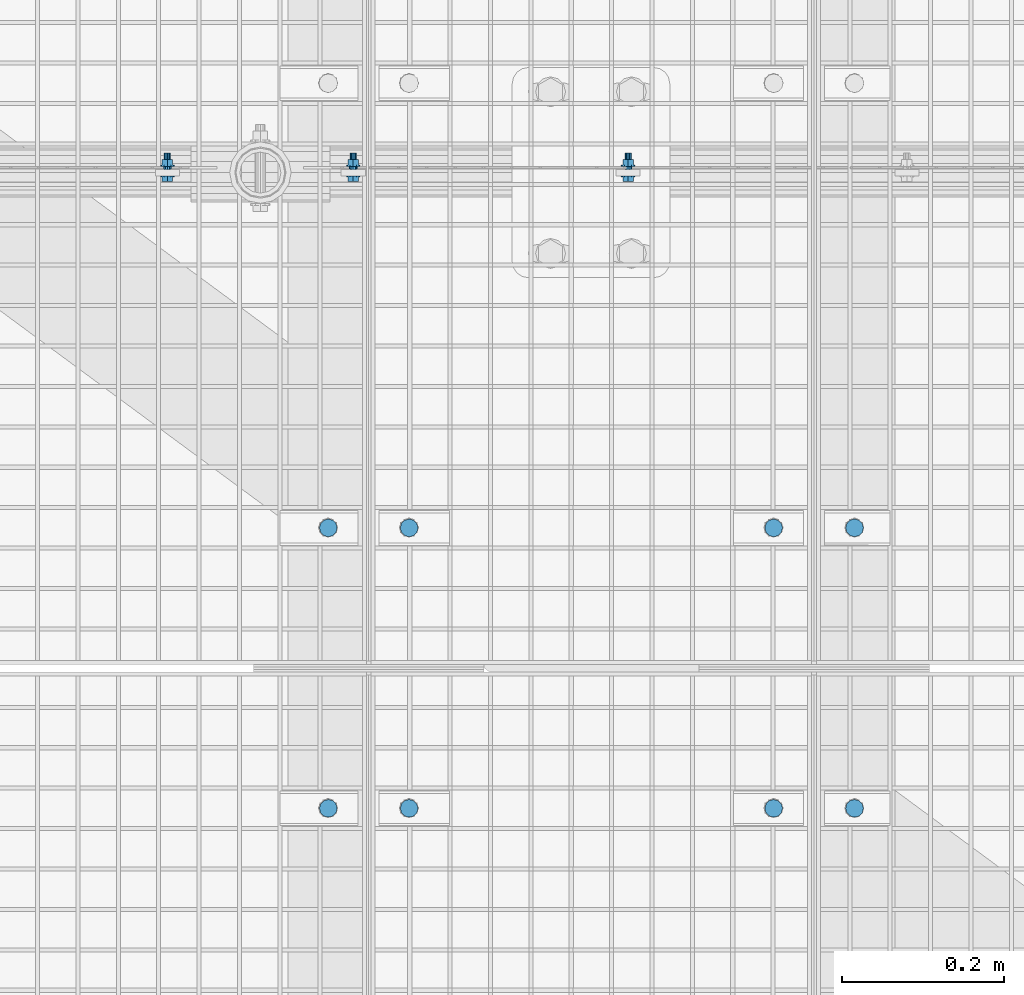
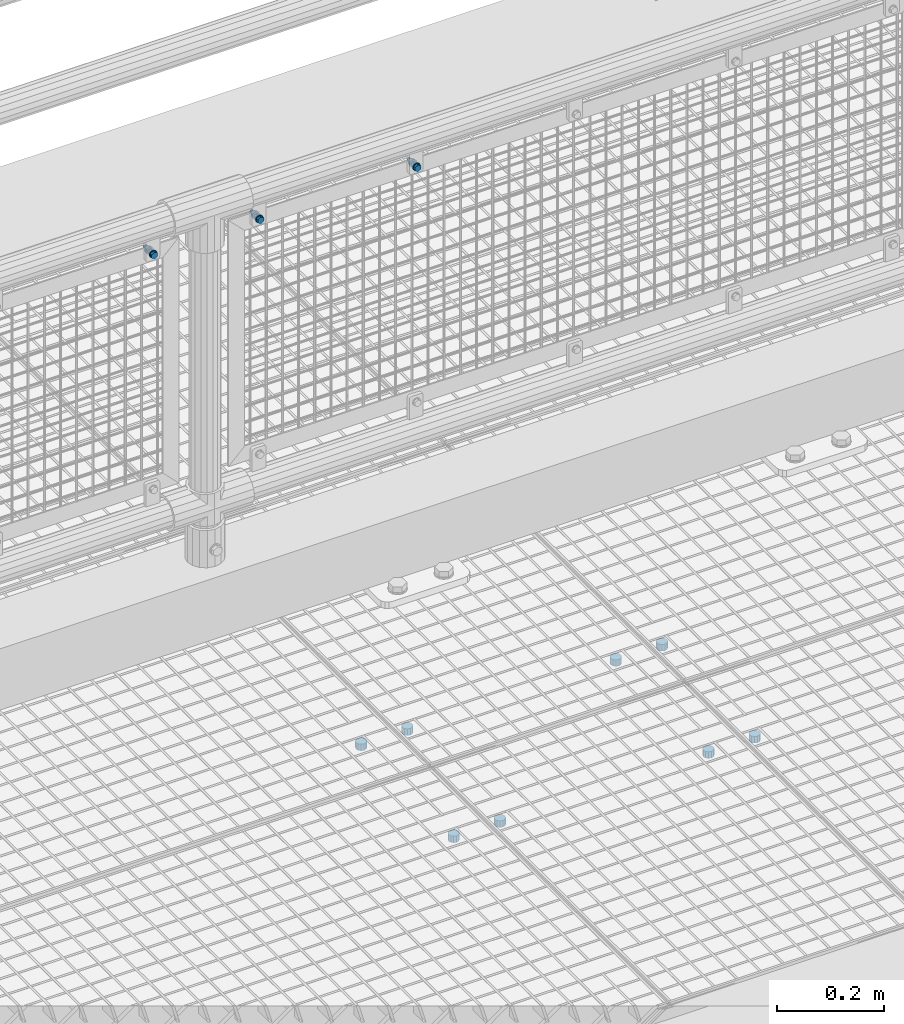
# One storey, part 72 of 1530: 11 mechanical fasteners.
"""IFC2X3 building model written with IfcOpenShell, lengths in millimetres."""

from ifc_helpers import new_model, si_unit, frame, origin_with_axes, place, context, subcontext, project, spatial, faceted_brep, source, transform, mapped, material, type_object, element, save


model = new_model("IFC2X3")

# Units and contexts
model_context = context("Model", 3, precision=1e-05, world=origin_with_axes())
body_context = subcontext(model_context, "Body", "Model", "MODEL_VIEW")
ifc_project = project(units=[si_unit("LENGTHUNIT", "METRE", prefix="MILLI"), si_unit("AREAUNIT", "SQUARE_METRE"), si_unit("VOLUMEUNIT", "CUBIC_METRE"), si_unit("MASSUNIT", "GRAM", prefix="KILO"), si_unit("TIMEUNIT", "SECOND"), si_unit("PLANEANGLEUNIT", "RADIAN"), si_unit("SOLIDANGLEUNIT", "STERADIAN"), si_unit("THERMODYNAMICTEMPERATUREUNIT", "DEGREE_CELSIUS"), si_unit("LUMINOUSINTENSITYUNIT", "LUMEN")], contexts=[model_context])

# Site, building, storey
site_placement = place(None, origin_with_axes())
site = spatial("IfcSite", under=ifc_project, at=site_placement, Name="Brattvåg", CompositionType="ELEMENT")
building_placement = place(site_placement, origin_with_axes())
building = spatial("IfcBuilding", under=site, at=building_placement, Name="Undefined", CompositionType="ELEMENT")
storey_placement = place(building_placement, origin_with_axes())
storey = spatial("IfcBuildingStorey", under=building, at=storey_placement, Name="Undefined", CompositionType="ELEMENT", Elevation=0.0)

# Mechanical fasteners
ifc_material = material(Name="8")
mechanical_fastener_type = type_object("IfcMechanicalFastenerType", Name="Bolt assembly")
shared_shape_1 = source(origin_with_axes(), body_context, "Body", "Brep", [
    faceted_brep([(11.0, -4.99999999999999, 0.0), (9.52627944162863, -4.99999999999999, 5.50000000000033), (5.49999999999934, -4.99999999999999, 9.5262794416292), (-1.13996957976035e-12, -4.99999999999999, 11.0), (-5.50000000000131, -4.99999999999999, 9.52627944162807), (-9.52627944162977, -4.99999999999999, 5.49999999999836), (-11.0, -4.99999999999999, -2.27993915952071e-12), (-9.5262794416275, -4.99999999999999, -5.5000000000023), (-5.49999999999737, -4.99999999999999, -9.52627944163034), (3.40769628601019e-12, -4.99999999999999, -11.0), (5.50000000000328, -4.99999999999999, -9.52627944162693), (9.52627944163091, -4.99999999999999, -5.49999999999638), (9.52627944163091, 10.1, -5.49999999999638), (5.50000000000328, 10.1, -9.52627944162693), (3.40769628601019e-12, 10.1, -11.0), (-5.49999999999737, 10.1, -9.52627944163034), (-9.5262794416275, 10.1, -5.5000000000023), (-11.0, 10.1, -2.27993915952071e-12), (-9.52627944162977, 10.1, 5.49999999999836), (-5.50000000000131, 10.1, 9.52627944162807), (-1.13996957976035e-12, 10.1, 11.0), (5.49999999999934, 10.1, 9.5262794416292), (9.52627944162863, 10.1, 5.50000000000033), (11.0, 10.1, 0.0)], [[[0, 1, 2, 3, 4, 5, 6, 7, 8, 9, 10, 11]], [[12, 13, 14, 15, 16, 17, 18, 19, 20, 21, 22, 23]], [[0, 23, 22, 1]], [[1, 22, 21, 2]], [[2, 21, 20, 3]], [[3, 20, 19, 4]], [[4, 19, 18, 5]], [[5, 18, 17, 6]], [[6, 17, 16, 7]], [[7, 16, 15, 8]], [[8, 15, 14, 9]], [[9, 14, 13, 10]], [[10, 13, 12, 11]], [[11, 12, 23, 0]]]),
])
for number, where, z_axis, x_axis, name in (
    (1, (2856.01522064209, 7224.91931152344, -35.0), (0.0, -1.0, 0.0), (-1.0, 1.99999855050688e-09, 0.0), "Bolt assembly"),
    (2, (2405.00477935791, 7224.91931152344, -35.0), (0.0, 1.0, 0.0), (1.0, 0.0, 0.0), "Bolt assembly"),
    (3, (2305.01487731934, 7224.9204864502, -35.0), (0.0, -1.0, 0.0), (-1.0, 1.99999855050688e-09, 0.0), "Bolt assembly"),
    (4, (2856.01522064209, 6877.99411010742, -35.0), (0.0, -1.0, 0.0), (-1.0, 1.99999855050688e-09, 0.0), "Bolt assembly"),
    (5, (2405.00477935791, 6877.99411010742, -35.0), (0.0, 1.0, 0.0), (1.0, 0.0, 0.0), "Bolt assembly"),
    (6, (2305.01487731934, 6877.99411010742, -35.0), (0.0, -1.0, 0.0), (-1.0, 1.99999855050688e-09, 0.0), "Bolt assembly"),
    (7, (2956.00477935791, 7224.98931152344, -35.0), (0.0, 1.0, 0.0), (1.0, 0.0, 0.0), "Bolt assembly"),
    (8, (2956.00477935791, 6877.99411010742, -35.0), (0.0, 1.0, 0.0), (1.0, 0.0, 0.0), "Bolt assembly"),
):
    element("IfcMechanicalFastener", number, at=place(storey_placement, frame(where, z_axis=z_axis, x_axis=x_axis)), inside=storey, type_object=mechanical_fastener_type, material=ifc_material, Name=name, NominalDiameter=20.0, NominalLength=15.0, context=body_context, shape_type="MappedRepresentation", body=[
        mapped(shared_shape_1, transform((0.0, 0.0, 0.0))),
    ])
shared_shape_2 = source(origin_with_axes(), body_context, "Body", "Brep", [
    faceted_brep([(7.50555349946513, -6.90000021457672, 0.0), (3.75277674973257, -6.90000021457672, 6.5), (-3.75277674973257, -6.90000021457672, 6.5), (-7.50555349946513, -6.90000021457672, 9.19165206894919e-16), (-3.75277674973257, -6.90000021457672, -6.5), (3.75277674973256, -6.90000021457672, -6.5), (3.75277674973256, -1.60000002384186, -6.5), (-3.75277674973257, -1.60000002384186, -6.5), (-7.50555349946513, -1.60000002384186, 9.19165206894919e-16), (-3.75277674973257, -1.60000002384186, 6.5), (3.75277674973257, -1.60000002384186, 6.5), (7.50555349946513, -1.60000002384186, 0.0), (4.0, -1.60000002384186, 0.0), (3.46410161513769, -1.60000002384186, 2.00000000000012), (1.99999999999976, -1.60000002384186, 3.46410161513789), (-4.14534392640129e-13, -1.60000002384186, 4.0), (-2.00000000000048, -1.60000002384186, 3.46410161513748), (-3.4641016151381, -1.60000002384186, 1.9999999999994), (-4.0, -1.60000002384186, -8.29068785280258e-13), (-3.46410161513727, -1.60000002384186, -2.00000000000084), (-1.99999999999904, -1.60000002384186, -3.46410161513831), (1.23916228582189e-12, -1.60000002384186, -4.0), (2.00000000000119, -1.60000002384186, -3.46410161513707), (3.46410161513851, -1.60000002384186, -1.99999999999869), (3.46410161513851, 28.3999999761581, -1.99999999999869), (2.00000000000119, 28.3999999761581, -3.46410161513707), (1.23916228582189e-12, 28.3999999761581, -4.0), (-1.99999999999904, 28.3999999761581, -3.46410161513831), (-3.46410161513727, 28.3999999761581, -2.00000000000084), (-4.0, 28.3999999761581, -8.29068785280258e-13), (-3.4641016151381, 28.3999999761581, 1.9999999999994), (-2.00000000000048, 28.3999999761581, 3.46410161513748), (-4.14534392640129e-13, 28.3999999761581, 4.0), (1.99999999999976, 28.3999999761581, 3.46410161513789), (3.46410161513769, 28.3999999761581, 2.00000000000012), (4.0, 28.3999999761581, 0.0), (8.5, -1.60000002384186, 0.0), (7.36121593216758, -1.60000002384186, 4.25000000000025), (4.24999999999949, -1.60000002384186, 7.36121593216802), (-8.80885584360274e-13, -1.60000002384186, 8.5), (-4.25000000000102, -1.60000002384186, 7.36121593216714), (-7.36121593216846, -1.60000002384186, 4.24999999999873), (-8.5, -1.60000002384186, -1.76177116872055e-12), (-7.3612159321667, -1.60000002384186, -4.25000000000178), (-4.24999999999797, -1.60000002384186, -7.3612159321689), (2.63321985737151e-12, -1.60000002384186, -8.5), (4.25000000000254, -1.60000002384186, -7.36121593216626), (7.36121593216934, -1.60000002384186, -4.24999999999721), (7.36121593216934, 0.0, -4.24999999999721), (4.25000000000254, 0.0, -7.36121593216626), (2.63321985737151e-12, 0.0, -8.5), (-4.24999999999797, 0.0, -7.3612159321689), (-7.3612159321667, 0.0, -4.25000000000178), (-8.5, 0.0, -1.76177116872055e-12), (-7.36121593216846, 0.0, 4.24999999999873), (-4.25000000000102, 0.0, 7.36121593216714), (-8.80885584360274e-13, 0.0, 8.5), (4.24999999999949, 0.0, 7.36121593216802), (7.36121593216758, 0.0, 4.25000000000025), (8.5, 0.0, 0.0), (8.5, 11.5015258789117, 0.0), (7.36121593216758, 11.5015258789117, 4.25000000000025), (4.24999999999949, 11.5015258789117, 7.36121593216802), (-8.80885584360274e-13, 11.5015258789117, 8.5), (-4.25000000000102, 11.5015258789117, 7.36121593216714), (-7.36121593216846, 11.5015258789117, 4.24999999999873), (-8.5, 11.5015258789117, -1.76177116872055e-12), (-7.3612159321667, 11.5015258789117, -4.25000000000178), (-4.24999999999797, 11.5015258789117, -7.3612159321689), (2.63321985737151e-12, 11.5015258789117, -8.5), (4.25000000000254, 11.5015258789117, -7.36121593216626), (7.36121593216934, 11.5015258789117, -4.24999999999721), (7.36121593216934, 13.1015259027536, -4.24999999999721), (4.25000000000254, 13.1015259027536, -7.36121593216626), (2.63321985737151e-12, 13.1015259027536, -8.5), (-4.24999999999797, 13.1015259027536, -7.3612159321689), (-7.3612159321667, 13.1015259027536, -4.25000000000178), (-8.5, 13.1015259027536, -1.76177116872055e-12), (-7.36121593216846, 13.1015259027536, 4.24999999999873), (-4.25000000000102, 13.1015259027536, 7.36121593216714), (-8.80885584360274e-13, 13.1015259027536, 8.5), (4.24999999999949, 13.1015259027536, 7.36121593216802), (7.36121593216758, 13.1015259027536, 4.25000000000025), (8.5, 13.1015259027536, 0.0), (7.50555349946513, 13.1015259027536, 0.0), (3.75277674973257, 13.1015259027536, 6.5), (-3.75277674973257, 13.1015259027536, 6.5), (-7.50555349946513, 13.1015259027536, 9.19165206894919e-16), (-3.75277674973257, 13.1015259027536, -6.5), (3.75277674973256, 13.1015259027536, -6.5), (3.75277674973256, 19.9015260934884, -6.5), (-3.75277674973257, 19.9015260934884, -6.5), (-7.50555349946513, 19.9015260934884, 9.19165206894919e-16), (-3.75277674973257, 19.9015260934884, 6.5), (3.75277674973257, 19.9015260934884, 6.5), (7.50555349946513, 19.9015260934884, 0.0)], [[[0, 1, 2, 3, 4, 5]], [[6, 7, 8, 9, 10, 11]], [[0, 11, 10, 1]], [[1, 10, 9, 2]], [[2, 9, 8, 3]], [[3, 8, 7, 4]], [[4, 7, 6, 5]], [[5, 6, 11, 0]], [[12, 13, 14, 15, 16, 17, 18, 19, 20, 21, 22, 23]], [[24, 25, 26, 27, 28, 29, 30, 31, 32, 33, 34, 35]], [[12, 35, 34, 13]], [[13, 34, 33, 14]], [[14, 33, 32, 15]], [[15, 32, 31, 16]], [[16, 31, 30, 17]], [[17, 30, 29, 18]], [[18, 29, 28, 19]], [[19, 28, 27, 20]], [[20, 27, 26, 21]], [[21, 26, 25, 22]], [[22, 25, 24, 23]], [[23, 24, 35, 12]], [[36, 37, 38, 39, 40, 41, 42, 43, 44, 45, 46, 47]], [[48, 49, 50, 51, 52, 53, 54, 55, 56, 57, 58, 59]], [[36, 59, 58, 37]], [[37, 58, 57, 38]], [[38, 57, 56, 39]], [[39, 56, 55, 40]], [[40, 55, 54, 41]], [[41, 54, 53, 42]], [[42, 53, 52, 43]], [[43, 52, 51, 44]], [[44, 51, 50, 45]], [[45, 50, 49, 46]], [[46, 49, 48, 47]], [[47, 48, 59, 36]], [[60, 61, 62, 63, 64, 65, 66, 67, 68, 69, 70, 71]], [[72, 73, 74, 75, 76, 77, 78, 79, 80, 81, 82, 83]], [[60, 83, 82, 61]], [[61, 82, 81, 62]], [[62, 81, 80, 63]], [[63, 80, 79, 64]], [[64, 79, 78, 65]], [[65, 78, 77, 66]], [[66, 77, 76, 67]], [[67, 76, 75, 68]], [[68, 75, 74, 69]], [[69, 74, 73, 70]], [[70, 73, 72, 71]], [[71, 72, 83, 60]], [[84, 85, 86, 87, 88, 89]], [[90, 91, 92, 93, 94, 95]], [[84, 95, 94, 85]], [[85, 94, 93, 86]], [[86, 93, 92, 87]], [[87, 92, 91, 88]], [[88, 91, 90, 89]], [[89, 90, 95, 84]]]),
    faceted_brep([(5.0, 0.1, 0.0), (4.33012701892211, 0.1, 2.50000000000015), (2.4999999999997, 0.1, 4.33012701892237), (-5.18167990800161e-13, 0.1, 5.0), (-2.5000000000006, 0.1, 4.33012701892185), (-4.33012701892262, 0.1, 2.49999999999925), (-5.0, 0.1, -1.03633598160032e-12), (-4.33012701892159, 0.1, -2.50000000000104), (-2.49999999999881, 0.1, -4.33012701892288), (1.54895285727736e-12, 0.1, -5.0), (2.50000000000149, 0.1, -4.33012701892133), (4.33012701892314, 0.1, -2.49999999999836), (4.33012701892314, 8.1, -2.49999999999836), (2.50000000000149, 8.1, -4.33012701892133), (1.54895285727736e-12, 8.1, -5.0), (-2.49999999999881, 8.1, -4.33012701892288), (-4.33012701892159, 8.1, -2.50000000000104), (-5.0, 8.1, -1.03633598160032e-12), (-4.33012701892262, 8.1, 2.49999999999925), (-2.5000000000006, 8.1, 4.33012701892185), (-5.18167990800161e-13, 8.1, 5.0), (2.4999999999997, 8.1, 4.33012701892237), (4.33012701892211, 8.1, 2.50000000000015), (5.0, 8.1, 0.0), (5.0, 8.40152587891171, 0.0), (4.33012701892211, 8.40152587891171, 2.50000000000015), (2.4999999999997, 8.40152587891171, 4.33012701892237), (-5.18167990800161e-13, 8.40152587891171, 5.0), (-2.5000000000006, 8.40152587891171, 4.33012701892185), (-4.33012701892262, 8.40152587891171, 2.49999999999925), (-5.0, 8.40152587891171, -1.03633598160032e-12), (-4.33012701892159, 8.40152587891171, -2.50000000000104), (-2.49999999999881, 8.40152587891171, -4.33012701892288), (1.54895285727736e-12, 8.40152587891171, -5.0), (2.50000000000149, 8.40152587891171, -4.33012701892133), (4.33012701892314, 8.40152587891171, -2.49999999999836), (4.33012701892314, 11.5015258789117, -2.49999999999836), (2.50000000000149, 11.5015258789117, -4.33012701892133), (1.54895285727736e-12, 11.5015258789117, -5.0), (-2.49999999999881, 11.5015258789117, -4.33012701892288), (-4.33012701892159, 11.5015258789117, -2.50000000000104), (-5.0, 11.5015258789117, -1.03633598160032e-12), (-4.33012701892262, 11.5015258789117, 2.49999999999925), (-2.5000000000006, 11.5015258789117, 4.33012701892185), (-5.18167990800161e-13, 11.5015258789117, 5.0), (2.4999999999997, 11.5015258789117, 4.33012701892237), (4.33012701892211, 11.5015258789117, 2.50000000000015), (5.0, 11.5015258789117, 0.0)], [[[0, 1, 2, 3, 4, 5, 6, 7, 8, 9, 10, 11]], [[12, 13, 14, 15, 16, 17, 18, 19, 20, 21, 22, 23]], [[0, 23, 22, 1]], [[1, 22, 21, 2]], [[2, 21, 20, 3]], [[3, 20, 19, 4]], [[4, 19, 18, 5]], [[5, 18, 17, 6]], [[6, 17, 16, 7]], [[7, 16, 15, 8]], [[8, 15, 14, 9]], [[9, 14, 13, 10]], [[10, 13, 12, 11]], [[11, 12, 23, 0]], [[24, 25, 26, 27, 28, 29, 30, 31, 32, 33, 34, 35]], [[36, 37, 38, 39, 40, 41, 42, 43, 44, 45, 46, 47]], [[24, 47, 46, 25]], [[25, 46, 45, 26]], [[26, 45, 44, 27]], [[27, 44, 43, 28]], [[28, 43, 42, 29]], [[29, 42, 41, 30]], [[30, 41, 40, 31]], [[31, 40, 39, 32]], [[32, 39, 38, 33]], [[33, 38, 37, 34]], [[34, 37, 36, 35]], [[35, 36, 47, 24]]]),
])
for number, where, z_axis, x_axis, name in (
    (9, (2335.85095214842, 7660.49950027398, 889.680069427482), (-1.0, 1.99999855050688e-09, 0.0), (0.0, 0.0, 1.0), "Bolt assembly"),
    (10, (2675.85110473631, 7660.49950027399, 889.680069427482), (-1.0, 1.99999855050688e-09, 0.0), (0.0, 0.0, 1.0), "Bolt assembly"),
):
    element("IfcMechanicalFastener", number, at=place(storey_placement, frame(where, z_axis=z_axis, x_axis=x_axis)), inside=storey, type_object=mechanical_fastener_type, material=ifc_material, Name=name, NominalDiameter=8.0, NominalLength=30.0, context=body_context, shape_type="MappedRepresentation", body=[
        mapped(shared_shape_2, transform((0.0, 0.0, 0.0))),
    ])
shared_shape_3 = source(origin_with_axes(), body_context, "Body", "Brep", [
    faceted_brep([(7.50555349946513, -6.90000021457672, 0.0), (3.75277674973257, -6.90000021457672, 6.5), (-3.75277674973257, -6.90000021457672, 6.5), (-7.50555349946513, -6.90000021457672, 9.19165206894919e-16), (-3.75277674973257, -6.90000021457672, -6.5), (3.75277674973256, -6.90000021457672, -6.5), (3.75277674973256, -1.60000002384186, -6.5), (-3.75277674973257, -1.60000002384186, -6.5), (-7.50555349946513, -1.60000002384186, 9.19165206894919e-16), (-3.75277674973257, -1.60000002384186, 6.5), (3.75277674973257, -1.60000002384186, 6.5), (7.50555349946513, -1.60000002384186, 0.0), (4.0, -1.60000002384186, 0.0), (3.46410161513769, -1.60000002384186, 2.00000000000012), (1.99999999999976, -1.60000002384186, 3.46410161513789), (-4.14534392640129e-13, -1.60000002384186, 4.0), (-2.00000000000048, -1.60000002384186, 3.46410161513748), (-3.4641016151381, -1.60000002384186, 1.9999999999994), (-4.0, -1.60000002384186, -8.29068785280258e-13), (-3.46410161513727, -1.60000002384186, -2.00000000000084), (-1.99999999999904, -1.60000002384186, -3.46410161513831), (1.23916228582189e-12, -1.60000002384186, -4.0), (2.00000000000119, -1.60000002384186, -3.46410161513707), (3.46410161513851, -1.60000002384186, -1.99999999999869), (3.46410161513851, 28.3999999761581, -1.99999999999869), (2.00000000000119, 28.3999999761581, -3.46410161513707), (1.23916228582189e-12, 28.3999999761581, -4.0), (-1.99999999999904, 28.3999999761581, -3.46410161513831), (-3.46410161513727, 28.3999999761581, -2.00000000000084), (-4.0, 28.3999999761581, -8.29068785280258e-13), (-3.4641016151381, 28.3999999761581, 1.9999999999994), (-2.00000000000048, 28.3999999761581, 3.46410161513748), (-4.14534392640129e-13, 28.3999999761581, 4.0), (1.99999999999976, 28.3999999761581, 3.46410161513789), (3.46410161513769, 28.3999999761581, 2.00000000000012), (4.0, 28.3999999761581, 0.0), (8.5, -1.60000002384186, 0.0), (7.36121593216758, -1.60000002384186, 4.25000000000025), (4.24999999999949, -1.60000002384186, 7.36121593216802), (-8.80885584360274e-13, -1.60000002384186, 8.5), (-4.25000000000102, -1.60000002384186, 7.36121593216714), (-7.36121593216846, -1.60000002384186, 4.24999999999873), (-8.5, -1.60000002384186, -1.76177116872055e-12), (-7.3612159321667, -1.60000002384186, -4.25000000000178), (-4.24999999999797, -1.60000002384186, -7.3612159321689), (2.63321985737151e-12, -1.60000002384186, -8.5), (4.25000000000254, -1.60000002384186, -7.36121593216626), (7.36121593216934, -1.60000002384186, -4.24999999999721), (7.36121593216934, 0.0, -4.24999999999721), (4.25000000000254, 0.0, -7.36121593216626), (2.63321985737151e-12, 0.0, -8.5), (-4.24999999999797, 0.0, -7.3612159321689), (-7.3612159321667, 0.0, -4.25000000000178), (-8.5, 0.0, -1.76177116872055e-12), (-7.36121593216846, 0.0, 4.24999999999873), (-4.25000000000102, 0.0, 7.36121593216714), (-8.80885584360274e-13, 0.0, 8.5), (4.24999999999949, 0.0, 7.36121593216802), (7.36121593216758, 0.0, 4.25000000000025), (8.5, 0.0, 0.0), (8.5, 11.5021362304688, 0.0), (7.36121593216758, 11.5021362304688, 4.25000000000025), (4.24999999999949, 11.5021362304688, 7.36121593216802), (-8.80885584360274e-13, 11.5021362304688, 8.5), (-4.25000000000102, 11.5021362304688, 7.36121593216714), (-7.36121593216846, 11.5021362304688, 4.24999999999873), (-8.5, 11.5021362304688, -1.76177116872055e-12), (-7.3612159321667, 11.5021362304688, -4.25000000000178), (-4.24999999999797, 11.5021362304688, -7.3612159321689), (2.63321985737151e-12, 11.5021362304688, -8.5), (4.25000000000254, 11.5021362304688, -7.36121593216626), (7.36121593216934, 11.5021362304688, -4.24999999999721), (7.36121593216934, 13.1021362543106, -4.24999999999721), (4.25000000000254, 13.1021362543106, -7.36121593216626), (2.63321985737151e-12, 13.1021362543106, -8.5), (-4.24999999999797, 13.1021362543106, -7.3612159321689), (-7.3612159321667, 13.1021362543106, -4.25000000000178), (-8.5, 13.1021362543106, -1.76177116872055e-12), (-7.36121593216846, 13.1021362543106, 4.24999999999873), (-4.25000000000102, 13.1021362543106, 7.36121593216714), (-8.80885584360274e-13, 13.1021362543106, 8.5), (4.24999999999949, 13.1021362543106, 7.36121593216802), (7.36121593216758, 13.1021362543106, 4.25000000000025), (8.5, 13.1021362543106, 0.0), (7.50555349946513, 13.1021362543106, 0.0), (3.75277674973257, 13.1021362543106, 6.5), (-3.75277674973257, 13.1021362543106, 6.5), (-7.50555349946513, 13.1021362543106, 9.19165206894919e-16), (-3.75277674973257, 13.1021362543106, -6.5), (3.75277674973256, 13.1021362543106, -6.5), (3.75277674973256, 19.9021364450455, -6.5), (-3.75277674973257, 19.9021364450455, -6.5), (-7.50555349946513, 19.9021364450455, 9.19165206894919e-16), (-3.75277674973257, 19.9021364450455, 6.5), (3.75277674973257, 19.9021364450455, 6.5), (7.50555349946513, 19.9021364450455, 0.0)], [[[0, 1, 2, 3, 4, 5]], [[6, 7, 8, 9, 10, 11]], [[0, 11, 10, 1]], [[1, 10, 9, 2]], [[2, 9, 8, 3]], [[3, 8, 7, 4]], [[4, 7, 6, 5]], [[5, 6, 11, 0]], [[12, 13, 14, 15, 16, 17, 18, 19, 20, 21, 22, 23]], [[24, 25, 26, 27, 28, 29, 30, 31, 32, 33, 34, 35]], [[12, 35, 34, 13]], [[13, 34, 33, 14]], [[14, 33, 32, 15]], [[15, 32, 31, 16]], [[16, 31, 30, 17]], [[17, 30, 29, 18]], [[18, 29, 28, 19]], [[19, 28, 27, 20]], [[20, 27, 26, 21]], [[21, 26, 25, 22]], [[22, 25, 24, 23]], [[23, 24, 35, 12]], [[36, 37, 38, 39, 40, 41, 42, 43, 44, 45, 46, 47]], [[48, 49, 50, 51, 52, 53, 54, 55, 56, 57, 58, 59]], [[36, 59, 58, 37]], [[37, 58, 57, 38]], [[38, 57, 56, 39]], [[39, 56, 55, 40]], [[40, 55, 54, 41]], [[41, 54, 53, 42]], [[42, 53, 52, 43]], [[43, 52, 51, 44]], [[44, 51, 50, 45]], [[45, 50, 49, 46]], [[46, 49, 48, 47]], [[47, 48, 59, 36]], [[60, 61, 62, 63, 64, 65, 66, 67, 68, 69, 70, 71]], [[72, 73, 74, 75, 76, 77, 78, 79, 80, 81, 82, 83]], [[60, 83, 82, 61]], [[61, 82, 81, 62]], [[62, 81, 80, 63]], [[63, 80, 79, 64]], [[64, 79, 78, 65]], [[65, 78, 77, 66]], [[66, 77, 76, 67]], [[67, 76, 75, 68]], [[68, 75, 74, 69]], [[69, 74, 73, 70]], [[70, 73, 72, 71]], [[71, 72, 83, 60]], [[84, 85, 86, 87, 88, 89]], [[90, 91, 92, 93, 94, 95]], [[84, 95, 94, 85]], [[85, 94, 93, 86]], [[86, 93, 92, 87]], [[87, 92, 91, 88]], [[88, 91, 90, 89]], [[89, 90, 95, 84]]]),
    faceted_brep([(5.0, 0.1, 0.0), (4.33012701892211, 0.1, 2.50000000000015), (2.4999999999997, 0.1, 4.33012701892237), (-5.18167990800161e-13, 0.1, 5.0), (-2.5000000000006, 0.1, 4.33012701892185), (-4.33012701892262, 0.1, 2.49999999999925), (-5.0, 0.1, -1.03633598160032e-12), (-4.33012701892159, 0.1, -2.50000000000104), (-2.49999999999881, 0.1, -4.33012701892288), (1.54895285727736e-12, 0.1, -5.0), (2.50000000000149, 0.1, -4.33012701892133), (4.33012701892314, 0.1, -2.49999999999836), (4.33012701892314, 8.1, -2.49999999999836), (2.50000000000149, 8.1, -4.33012701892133), (1.54895285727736e-12, 8.1, -5.0), (-2.49999999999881, 8.1, -4.33012701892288), (-4.33012701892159, 8.1, -2.50000000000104), (-5.0, 8.1, -1.03633598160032e-12), (-4.33012701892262, 8.1, 2.49999999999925), (-2.5000000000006, 8.1, 4.33012701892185), (-5.18167990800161e-13, 8.1, 5.0), (2.4999999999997, 8.1, 4.33012701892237), (4.33012701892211, 8.1, 2.50000000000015), (5.0, 8.1, 0.0), (5.0, 8.40213623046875, 0.0), (4.33012701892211, 8.40213623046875, 2.50000000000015), (2.4999999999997, 8.40213623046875, 4.33012701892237), (-5.18167990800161e-13, 8.40213623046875, 5.0), (-2.5000000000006, 8.40213623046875, 4.33012701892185), (-4.33012701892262, 8.40213623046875, 2.49999999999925), (-5.0, 8.40213623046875, -1.03633598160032e-12), (-4.33012701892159, 8.40213623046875, -2.50000000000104), (-2.49999999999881, 8.40213623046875, -4.33012701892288), (1.54895285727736e-12, 8.40213623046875, -5.0), (2.50000000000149, 8.40213623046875, -4.33012701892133), (4.33012701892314, 8.40213623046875, -2.49999999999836), (4.33012701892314, 11.5021362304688, -2.49999999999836), (2.50000000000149, 11.5021362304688, -4.33012701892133), (1.54895285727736e-12, 11.5021362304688, -5.0), (-2.49999999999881, 11.5021362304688, -4.33012701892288), (-4.33012701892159, 11.5021362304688, -2.50000000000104), (-5.0, 11.5021362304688, -1.03633598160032e-12), (-4.33012701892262, 11.5021362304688, 2.49999999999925), (-2.5000000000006, 11.5021362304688, 4.33012701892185), (-5.18167990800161e-13, 11.5021362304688, 5.0), (2.4999999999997, 11.5021362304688, 4.33012701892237), (4.33012701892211, 11.5021362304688, 2.50000000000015), (5.0, 11.5021362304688, 0.0)], [[[0, 1, 2, 3, 4, 5, 6, 7, 8, 9, 10, 11]], [[12, 13, 14, 15, 16, 17, 18, 19, 20, 21, 22, 23]], [[0, 23, 22, 1]], [[1, 22, 21, 2]], [[2, 21, 20, 3]], [[3, 20, 19, 4]], [[4, 19, 18, 5]], [[5, 18, 17, 6]], [[6, 17, 16, 7]], [[7, 16, 15, 8]], [[8, 15, 14, 9]], [[9, 14, 13, 10]], [[10, 13, 12, 11]], [[11, 12, 23, 0]], [[24, 25, 26, 27, 28, 29, 30, 31, 32, 33, 34, 35]], [[36, 37, 38, 39, 40, 41, 42, 43, 44, 45, 46, 47]], [[24, 47, 46, 25]], [[25, 46, 45, 26]], [[26, 45, 44, 27]], [[27, 44, 43, 28]], [[28, 43, 42, 29]], [[29, 42, 41, 30]], [[30, 41, 40, 31]], [[31, 40, 39, 32]], [[32, 39, 38, 33]], [[33, 38, 37, 34]], [[34, 37, 36, 35]], [[35, 36, 47, 24]]]),
])
mechanical_fastener_placement = place(storey_placement, frame((2106.00009155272, 7660.49888992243, 889.679782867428), z_axis=(-1.0, 1.99999855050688e-09, 0.0), x_axis=(0.0, 0.0, 1.0)))
element("IfcMechanicalFastener", 11, at=mechanical_fastener_placement, inside=storey, type_object=mechanical_fastener_type, material=ifc_material, Name="Bolt assembly", NominalDiameter=8.0, NominalLength=30.0, context=body_context, shape_type="MappedRepresentation", body=[
    mapped(shared_shape_3, transform((0.0, 0.0, 0.0))),
])

save(model, "model.ifc")
